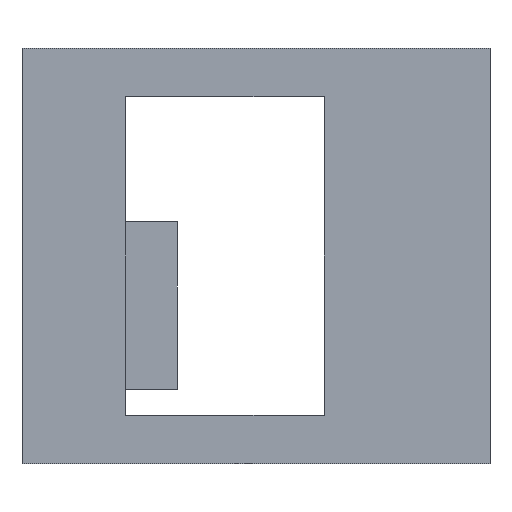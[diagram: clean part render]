
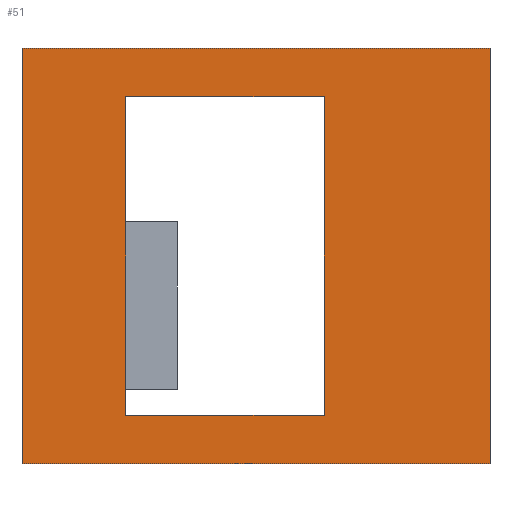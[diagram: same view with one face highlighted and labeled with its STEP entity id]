
A CAD part, left-side view. The second image highlights one B-rep face of the part: STEP entity #51.
In plain terms, the highlighted planar face has unit normal (-1, 0, 0).
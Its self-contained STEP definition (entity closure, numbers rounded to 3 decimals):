
#51 = ADVANCED_FACE('',(#52,#171),#66,.F.);
#52 = FACE_BOUND('',#53,.F.);
#53 = EDGE_LOOP('',(#54,#89,#117,#145));
#54 = ORIENTED_EDGE('',*,*,#55,.F.);
#55 = EDGE_CURVE('',#56,#58,#60,.T.);
#56 = VERTEX_POINT('',#57);
#57 = CARTESIAN_POINT('',(-57.,-135.5,-32.));
#58 = VERTEX_POINT('',#59);
#59 = CARTESIAN_POINT('',(-57.,-135.5,88.197));
#60 = SURFACE_CURVE('',#61,(#65,#77),.PCURVE_S1.);
#61 = LINE('',#62,#63);
#62 = CARTESIAN_POINT('',(-57.,-135.5,-32.));
#63 = VECTOR('',#64,1.);
#64 = DIRECTION('',(0.,0.,1.));
#65 = PCURVE('',#66,#71);
#66 = PLANE('',#67);
#67 = AXIS2_PLACEMENT_3D('',#68,#69,#70);
#68 = CARTESIAN_POINT('',(-57.,-135.5,-32.));
#69 = DIRECTION('',(1.,0.,0.));
#70 = DIRECTION('',(0.,0.,1.));
#71 = DEFINITIONAL_REPRESENTATION('',(#72),#76);
#72 = LINE('',#73,#74);
#73 = CARTESIAN_POINT('',(0.,0.));
#74 = VECTOR('',#75,1.);
#75 = DIRECTION('',(1.,0.));
#76 = ( GEOMETRIC_REPRESENTATION_CONTEXT(2) 
PARAMETRIC_REPRESENTATION_CONTEXT() REPRESENTATION_CONTEXT('2D SPACE',''
  ) );
#77 = PCURVE('',#78,#83);
#78 = PLANE('',#79);
#79 = AXIS2_PLACEMENT_3D('',#80,#81,#82);
#80 = CARTESIAN_POINT('',(-57.,-135.5,-32.));
#81 = DIRECTION('',(0.,1.,0.));
#82 = DIRECTION('',(0.,0.,1.));
#83 = DEFINITIONAL_REPRESENTATION('',(#84),#88);
#84 = LINE('',#85,#86);
#85 = CARTESIAN_POINT('',(0.,0.));
#86 = VECTOR('',#87,1.);
#87 = DIRECTION('',(1.,0.));
#88 = ( GEOMETRIC_REPRESENTATION_CONTEXT(2) 
PARAMETRIC_REPRESENTATION_CONTEXT() REPRESENTATION_CONTEXT('2D SPACE',''
  ) );
#89 = ORIENTED_EDGE('',*,*,#90,.T.);
#90 = EDGE_CURVE('',#56,#91,#93,.T.);
#91 = VERTEX_POINT('',#92);
#92 = CARTESIAN_POINT('',(-57.,0.,-32.));
#93 = SURFACE_CURVE('',#94,(#98,#105),.PCURVE_S1.);
#94 = LINE('',#95,#96);
#95 = CARTESIAN_POINT('',(-57.,-135.5,-32.));
#96 = VECTOR('',#97,1.);
#97 = DIRECTION('',(0.,1.,0.));
#98 = PCURVE('',#66,#99);
#99 = DEFINITIONAL_REPRESENTATION('',(#100),#104);
#100 = LINE('',#101,#102);
#101 = CARTESIAN_POINT('',(0.,0.));
#102 = VECTOR('',#103,1.);
#103 = DIRECTION('',(0.,-1.));
#104 = ( GEOMETRIC_REPRESENTATION_CONTEXT(2) 
PARAMETRIC_REPRESENTATION_CONTEXT() REPRESENTATION_CONTEXT('2D SPACE',''
  ) );
#105 = PCURVE('',#106,#111);
#106 = PLANE('',#107);
#107 = AXIS2_PLACEMENT_3D('',#108,#109,#110);
#108 = CARTESIAN_POINT('',(-57.,-135.5,-32.));
#109 = DIRECTION('',(0.,0.,1.));
#110 = DIRECTION('',(1.,0.,0.));
#111 = DEFINITIONAL_REPRESENTATION('',(#112),#116);
#112 = LINE('',#113,#114);
#113 = CARTESIAN_POINT('',(0.,0.));
#114 = VECTOR('',#115,1.);
#115 = DIRECTION('',(0.,1.));
#116 = ( GEOMETRIC_REPRESENTATION_CONTEXT(2) 
PARAMETRIC_REPRESENTATION_CONTEXT() REPRESENTATION_CONTEXT('2D SPACE',''
  ) );
#117 = ORIENTED_EDGE('',*,*,#118,.T.);
#118 = EDGE_CURVE('',#91,#119,#121,.T.);
#119 = VERTEX_POINT('',#120);
#120 = CARTESIAN_POINT('',(-57.,0.,88.197));
#121 = SURFACE_CURVE('',#122,(#126,#133),.PCURVE_S1.);
#122 = LINE('',#123,#124);
#123 = CARTESIAN_POINT('',(-57.,0.,-32.));
#124 = VECTOR('',#125,1.);
#125 = DIRECTION('',(0.,0.,1.));
#126 = PCURVE('',#66,#127);
#127 = DEFINITIONAL_REPRESENTATION('',(#128),#132);
#128 = LINE('',#129,#130);
#129 = CARTESIAN_POINT('',(0.,-135.5));
#130 = VECTOR('',#131,1.);
#131 = DIRECTION('',(1.,0.));
#132 = ( GEOMETRIC_REPRESENTATION_CONTEXT(2) 
PARAMETRIC_REPRESENTATION_CONTEXT() REPRESENTATION_CONTEXT('2D SPACE',''
  ) );
#133 = PCURVE('',#134,#139);
#134 = PLANE('',#135);
#135 = AXIS2_PLACEMENT_3D('',#136,#137,#138);
#136 = CARTESIAN_POINT('',(-57.,0.,-32.));
#137 = DIRECTION('',(0.,1.,0.));
#138 = DIRECTION('',(0.,0.,1.));
#139 = DEFINITIONAL_REPRESENTATION('',(#140),#144);
#140 = LINE('',#141,#142);
#141 = CARTESIAN_POINT('',(0.,0.));
#142 = VECTOR('',#143,1.);
#143 = DIRECTION('',(1.,0.));
#144 = ( GEOMETRIC_REPRESENTATION_CONTEXT(2) 
PARAMETRIC_REPRESENTATION_CONTEXT() REPRESENTATION_CONTEXT('2D SPACE',''
  ) );
#145 = ORIENTED_EDGE('',*,*,#146,.F.);
#146 = EDGE_CURVE('',#58,#119,#147,.T.);
#147 = SURFACE_CURVE('',#148,(#152,#159),.PCURVE_S1.);
#148 = LINE('',#149,#150);
#149 = CARTESIAN_POINT('',(-57.,-135.5,88.197));
#150 = VECTOR('',#151,1.);
#151 = DIRECTION('',(0.,1.,0.));
#152 = PCURVE('',#66,#153);
#153 = DEFINITIONAL_REPRESENTATION('',(#154),#158);
#154 = LINE('',#155,#156);
#155 = CARTESIAN_POINT('',(120.197,0.));
#156 = VECTOR('',#157,1.);
#157 = DIRECTION('',(0.,-1.));
#158 = ( GEOMETRIC_REPRESENTATION_CONTEXT(2) 
PARAMETRIC_REPRESENTATION_CONTEXT() REPRESENTATION_CONTEXT('2D SPACE',''
  ) );
#159 = PCURVE('',#160,#165);
#160 = PLANE('',#161);
#161 = AXIS2_PLACEMENT_3D('',#162,#163,#164);
#162 = CARTESIAN_POINT('',(-57.,-135.5,88.197));
#163 = DIRECTION('',(0.,0.,1.));
#164 = DIRECTION('',(1.,0.,0.));
#165 = DEFINITIONAL_REPRESENTATION('',(#166),#170);
#166 = LINE('',#167,#168);
#167 = CARTESIAN_POINT('',(0.,0.));
#168 = VECTOR('',#169,1.);
#169 = DIRECTION('',(0.,1.));
#170 = ( GEOMETRIC_REPRESENTATION_CONTEXT(2) 
PARAMETRIC_REPRESENTATION_CONTEXT() REPRESENTATION_CONTEXT('2D SPACE',''
  ) );
#171 = FACE_BOUND('',#172,.F.);
#172 = EDGE_LOOP('',(#173,#201,#227,#253));
#173 = ORIENTED_EDGE('',*,*,#174,.T.);
#174 = EDGE_CURVE('',#175,#177,#179,.T.);
#175 = VERTEX_POINT('',#176);
#176 = CARTESIAN_POINT('',(-57.,-30.,-18.));
#177 = VERTEX_POINT('',#178);
#178 = CARTESIAN_POINT('',(-57.,-87.5,-18.));
#179 = SURFACE_CURVE('',#180,(#184,#190),.PCURVE_S1.);
#180 = LINE('',#181,#182);
#181 = CARTESIAN_POINT('',(-57.,-111.5,-18.));
#182 = VECTOR('',#183,1.);
#183 = DIRECTION('',(0.,-1.,0.));
#184 = PCURVE('',#66,#185);
#185 = DEFINITIONAL_REPRESENTATION('',(#186),#189);
#186 = B_SPLINE_CURVE_WITH_KNOTS('',1,(#187,#188),.UNSPECIFIED.,.F.,.F.,
  (2,2),(-81.5,-24.),.PIECEWISE_BEZIER_KNOTS.);
#187 = CARTESIAN_POINT('',(14.,-105.5));
#188 = CARTESIAN_POINT('',(14.,-48.));
#189 = ( GEOMETRIC_REPRESENTATION_CONTEXT(2) 
PARAMETRIC_REPRESENTATION_CONTEXT() REPRESENTATION_CONTEXT('2D SPACE',''
  ) );
#190 = PCURVE('',#191,#196);
#191 = PLANE('',#192);
#192 = AXIS2_PLACEMENT_3D('',#193,#194,#195);
#193 = CARTESIAN_POINT('',(-58.,-87.5,-18.));
#194 = DIRECTION('',(0.,0.,1.));
#195 = DIRECTION('',(1.,0.,0.));
#196 = DEFINITIONAL_REPRESENTATION('',(#197),#200);
#197 = B_SPLINE_CURVE_WITH_KNOTS('',1,(#198,#199),.UNSPECIFIED.,.F.,.F.,
  (2,2),(-81.5,-24.),.PIECEWISE_BEZIER_KNOTS.);
#198 = CARTESIAN_POINT('',(1.,57.5));
#199 = CARTESIAN_POINT('',(1.,0.));
#200 = ( GEOMETRIC_REPRESENTATION_CONTEXT(2) 
PARAMETRIC_REPRESENTATION_CONTEXT() REPRESENTATION_CONTEXT('2D SPACE',''
  ) );
#201 = ORIENTED_EDGE('',*,*,#202,.T.);
#202 = EDGE_CURVE('',#177,#203,#205,.T.);
#203 = VERTEX_POINT('',#204);
#204 = CARTESIAN_POINT('',(-57.,-87.5,74.197));
#205 = SURFACE_CURVE('',#206,(#210,#216),.PCURVE_S1.);
#206 = LINE('',#207,#208);
#207 = CARTESIAN_POINT('',(-57.,-87.5,-25.));
#208 = VECTOR('',#209,1.);
#209 = DIRECTION('',(0.,0.,1.));
#210 = PCURVE('',#66,#211);
#211 = DEFINITIONAL_REPRESENTATION('',(#212),#215);
#212 = B_SPLINE_CURVE_WITH_KNOTS('',1,(#213,#214),.UNSPECIFIED.,.F.,.F.,
  (2,2),(7.,99.197),.PIECEWISE_BEZIER_KNOTS.);
#213 = CARTESIAN_POINT('',(14.,-48.));
#214 = CARTESIAN_POINT('',(106.197,-48.));
#215 = ( GEOMETRIC_REPRESENTATION_CONTEXT(2) 
PARAMETRIC_REPRESENTATION_CONTEXT() REPRESENTATION_CONTEXT('2D SPACE',''
  ) );
#216 = PCURVE('',#217,#222);
#217 = PLANE('',#218);
#218 = AXIS2_PLACEMENT_3D('',#219,#220,#221);
#219 = CARTESIAN_POINT('',(-58.,-87.5,-18.));
#220 = DIRECTION('',(0.,1.,0.));
#221 = DIRECTION('',(0.,0.,1.));
#222 = DEFINITIONAL_REPRESENTATION('',(#223),#226);
#223 = B_SPLINE_CURVE_WITH_KNOTS('',1,(#224,#225),.UNSPECIFIED.,.F.,.F.,
  (2,2),(7.,99.197),.PIECEWISE_BEZIER_KNOTS.);
#224 = CARTESIAN_POINT('',(0.,1.));
#225 = CARTESIAN_POINT('',(92.197,1.));
#226 = ( GEOMETRIC_REPRESENTATION_CONTEXT(2) 
PARAMETRIC_REPRESENTATION_CONTEXT() REPRESENTATION_CONTEXT('2D SPACE',''
  ) );
#227 = ORIENTED_EDGE('',*,*,#228,.F.);
#228 = EDGE_CURVE('',#229,#203,#231,.T.);
#229 = VERTEX_POINT('',#230);
#230 = CARTESIAN_POINT('',(-57.,-30.,74.197));
#231 = SURFACE_CURVE('',#232,(#236,#242),.PCURVE_S1.);
#232 = LINE('',#233,#234);
#233 = CARTESIAN_POINT('',(-57.,-111.5,74.197));
#234 = VECTOR('',#235,1.);
#235 = DIRECTION('',(0.,-1.,0.));
#236 = PCURVE('',#66,#237);
#237 = DEFINITIONAL_REPRESENTATION('',(#238),#241);
#238 = B_SPLINE_CURVE_WITH_KNOTS('',1,(#239,#240),.UNSPECIFIED.,.F.,.F.,
  (2,2),(-81.5,-24.),.PIECEWISE_BEZIER_KNOTS.);
#239 = CARTESIAN_POINT('',(106.197,-105.5));
#240 = CARTESIAN_POINT('',(106.197,-48.));
#241 = ( GEOMETRIC_REPRESENTATION_CONTEXT(2) 
PARAMETRIC_REPRESENTATION_CONTEXT() REPRESENTATION_CONTEXT('2D SPACE',''
  ) );
#242 = PCURVE('',#243,#248);
#243 = PLANE('',#244);
#244 = AXIS2_PLACEMENT_3D('',#245,#246,#247);
#245 = CARTESIAN_POINT('',(-58.,-87.5,74.197));
#246 = DIRECTION('',(0.,0.,1.));
#247 = DIRECTION('',(1.,0.,0.));
#248 = DEFINITIONAL_REPRESENTATION('',(#249),#252);
#249 = B_SPLINE_CURVE_WITH_KNOTS('',1,(#250,#251),.UNSPECIFIED.,.F.,.F.,
  (2,2),(-81.5,-24.),.PIECEWISE_BEZIER_KNOTS.);
#250 = CARTESIAN_POINT('',(1.,57.5));
#251 = CARTESIAN_POINT('',(1.,0.));
#252 = ( GEOMETRIC_REPRESENTATION_CONTEXT(2) 
PARAMETRIC_REPRESENTATION_CONTEXT() REPRESENTATION_CONTEXT('2D SPACE',''
  ) );
#253 = ORIENTED_EDGE('',*,*,#254,.F.);
#254 = EDGE_CURVE('',#175,#229,#255,.T.);
#255 = SURFACE_CURVE('',#256,(#260,#266),.PCURVE_S1.);
#256 = LINE('',#257,#258);
#257 = CARTESIAN_POINT('',(-57.,-30.,-25.));
#258 = VECTOR('',#259,1.);
#259 = DIRECTION('',(0.,0.,1.));
#260 = PCURVE('',#66,#261);
#261 = DEFINITIONAL_REPRESENTATION('',(#262),#265);
#262 = B_SPLINE_CURVE_WITH_KNOTS('',1,(#263,#264),.UNSPECIFIED.,.F.,.F.,
  (2,2),(7.,99.197),.PIECEWISE_BEZIER_KNOTS.);
#263 = CARTESIAN_POINT('',(14.,-105.5));
#264 = CARTESIAN_POINT('',(106.197,-105.5));
#265 = ( GEOMETRIC_REPRESENTATION_CONTEXT(2) 
PARAMETRIC_REPRESENTATION_CONTEXT() REPRESENTATION_CONTEXT('2D SPACE',''
  ) );
#266 = PCURVE('',#267,#272);
#267 = PLANE('',#268);
#268 = AXIS2_PLACEMENT_3D('',#269,#270,#271);
#269 = CARTESIAN_POINT('',(-58.,-30.,-18.));
#270 = DIRECTION('',(0.,1.,0.));
#271 = DIRECTION('',(0.,0.,1.));
#272 = DEFINITIONAL_REPRESENTATION('',(#273),#276);
#273 = B_SPLINE_CURVE_WITH_KNOTS('',1,(#274,#275),.UNSPECIFIED.,.F.,.F.,
  (2,2),(7.,99.197),.PIECEWISE_BEZIER_KNOTS.);
#274 = CARTESIAN_POINT('',(0.,1.));
#275 = CARTESIAN_POINT('',(92.197,1.));
#276 = ( GEOMETRIC_REPRESENTATION_CONTEXT(2) 
PARAMETRIC_REPRESENTATION_CONTEXT() REPRESENTATION_CONTEXT('2D SPACE',''
  ) );
